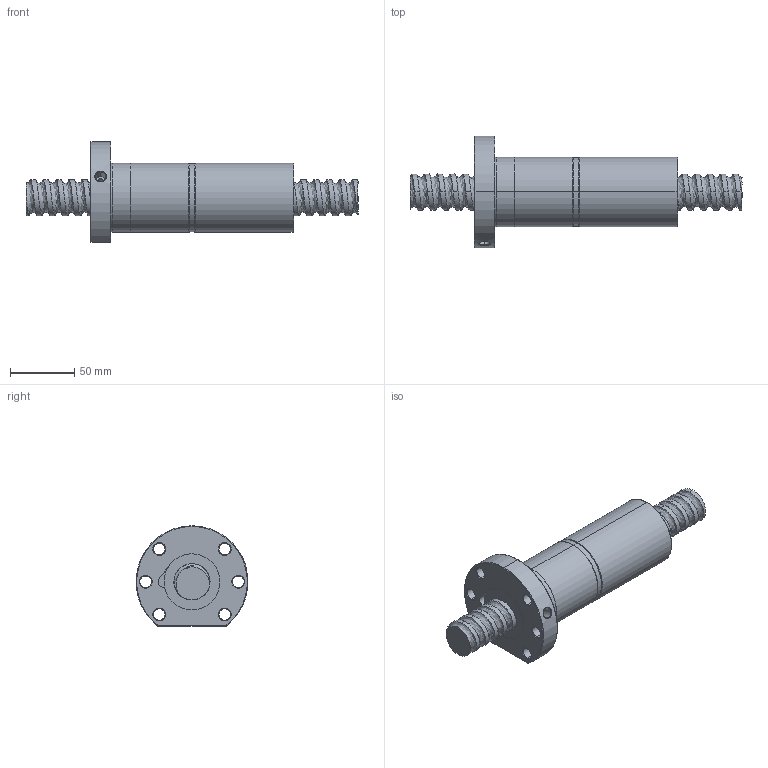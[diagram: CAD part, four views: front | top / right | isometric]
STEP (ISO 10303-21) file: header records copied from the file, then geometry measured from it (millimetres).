
FILE_DESCRIPTION (( 'STEP AP214' ), '1' );
FILE_NAME ('FDDC02810T5-F-B.STEP', '2010-07-06T03:19:58', ( 'XPAUTO' ), ( 'XPAUTO' ), 'SwSTEP 2.0', 'SolidWorks 2007', '' );
FILE_SCHEMA (( 'AUTOMOTIVE_DESIGN' ));
Length unit declared in the file: millimetre
Products named in the file (3): FDDC02810T5-F-B.sldasm-Part-2_預設; FDDC02810T5-F-B.sldasm-Part-1_預設; FDDC02810T5-F-B
Assembly tree (2 placements, depth 2):
  FDDC02810T5-F-B
    FDDC02810T5-F-B.sldasm-Part-2_預設
    FDDC02810T5-F-B.sldasm-Part-1_預設
Bounding box: 258 x 86.73 x 78 mm (x, y, z)
Volume: 441532.8 mm3; surface area: 82398.5 mm2
Topology: 2 solids, 2 shells, 151 faces, 382 edges, 240 vertices
Faces by surface type: cylinder 94, cone 24, plane 19, torus 9, bspline 5
Entity records: 46030 total; most frequent: CARTESIAN_POINT 42463, ORIENTED_EDGE 764, DIRECTION 674, EDGE_CURVE 382, AXIS2_PLACEMENT_3D 272, VERTEX_POINT 240, EDGE_LOOP 172, ADVANCED_FACE 151
